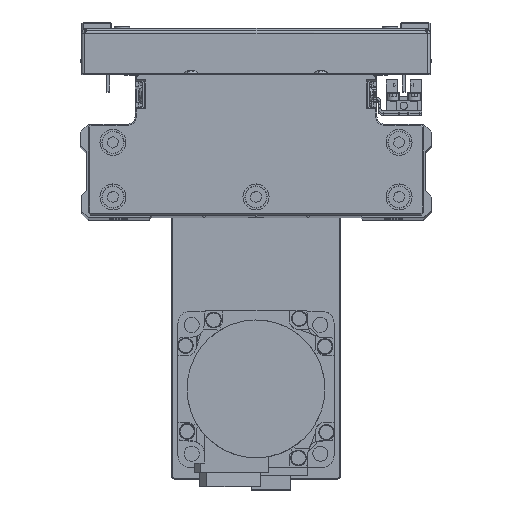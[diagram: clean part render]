
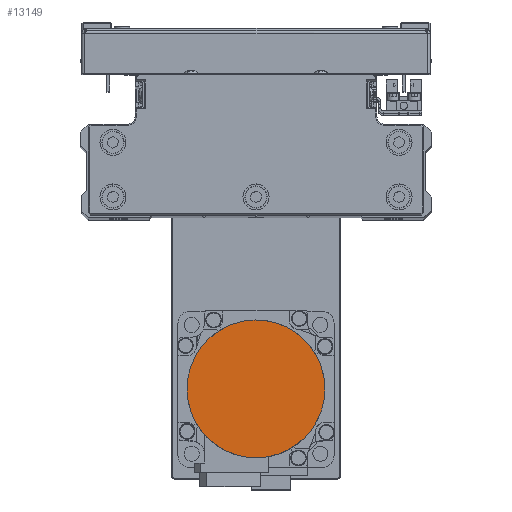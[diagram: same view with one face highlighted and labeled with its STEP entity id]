
A CAD part, top view. The second image highlights one B-rep face of the part: STEP entity #13149.
In plain terms, the highlighted planar face has unit normal (0, 0, 1) as drawn and (0, 0, -1) by its records, which use the part's own axes.
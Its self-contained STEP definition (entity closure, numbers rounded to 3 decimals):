
#275 = B_SPLINE_CURVE_WITH_KNOTS ( 'NONE', 3,
 ( #40828, #10545, #24027, #37523, #7233, #20715, #34214, #3919, #17388, #30891, #599, #14077, #27581, #41055, #10770, #24251, #37745, #7453, #20932, #34428, #4134, #17607, #31112, #825, #14301, #27803, #41276, #10997, #24473, #37962, #7664, #21150, #34647, #4357 ),
 .UNSPECIFIED., .F., .F.,
 ( 4, 2, 2, 2, 2, 2, 2, 2, 2, 2, 2, 2, 2, 2, 2, 2, 4 ),
 ( 0., 0.063, 0.125, 0.188, 0.25, 0.312, 0.375, 0.437, 0.5, 0.562, 0.625, 0.687, 0.75, 0.813, 0.875, 0.938, 1. ),
 .UNSPECIFIED. ) ;
#599 = CARTESIAN_POINT ( 'NONE',  ( -16.165, -21.07, -109.7 ) ) ;
#825 = CARTESIAN_POINT ( 'NONE',  ( 16.165, -21.07, -109.7 ) ) ;
#1403 = CARTESIAN_POINT ( 'NONE',  ( 22.998, 13.28, -109.7 ) ) ;
#1614 = CARTESIAN_POINT ( 'NONE',  ( -6.871, 25.652, -109.7 ) ) ;
#1831 = CARTESIAN_POINT ( 'NONE',  ( -26.5, 1.734, -109.7 ) ) ;
#3809 = AXIS2_PLACEMENT_3D ( 'NONE', #43321, #13039, #26533 ) ;
#3919 = CARTESIAN_POINT ( 'NONE',  ( -21.07, -16.165, -109.7 ) ) ;
#4134 = CARTESIAN_POINT ( 'NONE',  ( 8.539, -25.147, -109.7 ) ) ;
#4357 = CARTESIAN_POINT ( 'NONE',  ( 26.5, 0., -109.7 ) ) ;
#4729 = CARTESIAN_POINT ( 'NONE',  ( 25.652, 6.871, -109.7 ) ) ;
#4937 = CARTESIAN_POINT ( 'NONE',  ( 1.734, 26.5, -109.7 ) ) ;
#5151 = CARTESIAN_POINT ( 'NONE',  ( -25.147, 8.539, -109.7 ) ) ;
#7233 = CARTESIAN_POINT ( 'NONE',  ( -25.147, -8.539, -109.7 ) ) ;
#7453 = CARTESIAN_POINT ( 'NONE',  ( 1.734, -26.5, -109.7 ) ) ;
#7664 = CARTESIAN_POINT ( 'NONE',  ( 25.652, -6.871, -109.7 ) ) ;
#8042 = CARTESIAN_POINT ( 'NONE',  ( 26.5, 0., -109.7 ) ) ;
#8251 = CARTESIAN_POINT ( 'NONE',  ( 8.539, 25.147, -109.7 ) ) ;
#8463 = CARTESIAN_POINT ( 'NONE',  ( -21.07, 16.165, -109.7 ) ) ;
#10545 = CARTESIAN_POINT ( 'NONE',  ( -26.5, -1.734, -109.7 ) ) ;
#10770 = CARTESIAN_POINT ( 'NONE',  ( -6.871, -25.652, -109.7 ) ) ;
#10997 = CARTESIAN_POINT ( 'NONE',  ( 22.998, -13.28, -109.7 ) ) ;
#11570 = CARTESIAN_POINT ( 'NONE',  ( 16.165, 21.07, -109.7 ) ) ;
#11622 = EDGE_CURVE ( 'NONE', #18825, #31025, #19077, .T. ) ;
#11783 = CARTESIAN_POINT ( 'NONE',  ( -16.165, 21.07, -109.7 ) ) ;
#13039 = DIRECTION ( 'NONE',  ( 0., 0., 1. ) ) ;
#13149 = ADVANCED_FACE ( 'NONE', ( #16353 ), #29841, .F. ) ;
#14077 = CARTESIAN_POINT ( 'NONE',  ( -13.28, -22.998, -109.7 ) ) ;
#14301 = CARTESIAN_POINT ( 'NONE',  ( 17.512, -19.965, -109.7 ) ) ;
#14891 = CARTESIAN_POINT ( 'NONE',  ( 21.07, 16.165, -109.7 ) ) ;
#15109 = CARTESIAN_POINT ( 'NONE',  ( -8.539, 25.147, -109.7 ) ) ;
#15327 = CARTESIAN_POINT ( 'NONE',  ( -26.5, 0., -109.7 ) ) ;
#15533 = CARTESIAN_POINT ( 'NONE',  ( -26.5, 0., -109.7 ) ) ;
#16353 = FACE_OUTER_BOUND ( 'NONE', #22803, .T. ) ;
#17388 = CARTESIAN_POINT ( 'NONE',  ( -19.965, -17.512, -109.7 ) ) ;
#17607 = CARTESIAN_POINT ( 'NONE',  ( 11.744, -23.819, -109.7 ) ) ;
#18208 = CARTESIAN_POINT ( 'NONE',  ( 25.147, 8.539, -109.7 ) ) ;
#18417 = CARTESIAN_POINT ( 'NONE',  ( -1.734, 26.5, -109.7 ) ) ;
#18624 = CARTESIAN_POINT ( 'NONE',  ( -25.652, 6.871, -109.7 ) ) ;
#18825 = VERTEX_POINT ( 'NONE', #22446 ) ;
#19077 = B_SPLINE_CURVE_WITH_KNOTS ( 'NONE', 3,
 ( #8042, #21532, #35014, #4729, #18208, #31687, #1403, #14891, #28379, #41856, #11570, #25055, #38554, #8251, #21728, #35225, #4937, #18417, #31903, #1614, #15109, #28596, #42071, #11783, #25265, #38761, #8463, #21938, #35436, #5151, #18624, #32129, #1831, #15327 ),
 .UNSPECIFIED., .F., .F.,
 ( 4, 2, 2, 2, 2, 2, 2, 2, 2, 2, 2, 2, 2, 2, 2, 2, 4 ),
 ( 0., 0.062, 0.125, 0.187, 0.25, 0.312, 0.375, 0.437, 0.5, 0.562, 0.625, 0.687, 0.75, 0.813, 0.875, 0.938, 1. ),
 .UNSPECIFIED. ) ;
#20715 = CARTESIAN_POINT ( 'NONE',  ( -23.819, -11.744, -109.7 ) ) ;
#20932 = CARTESIAN_POINT ( 'NONE',  ( 3.469, -26.329, -109.7 ) ) ;
#21150 = CARTESIAN_POINT ( 'NONE',  ( 26.329, -3.469, -109.7 ) ) ;
#21532 = CARTESIAN_POINT ( 'NONE',  ( 26.5, 1.734, -109.7 ) ) ;
#21728 = CARTESIAN_POINT ( 'NONE',  ( 6.871, 25.652, -109.7 ) ) ;
#21938 = CARTESIAN_POINT ( 'NONE',  ( -22.998, 13.28, -109.7 ) ) ;
#22446 = CARTESIAN_POINT ( 'NONE',  ( 26.5, 0., -109.7 ) ) ;
#22803 = EDGE_LOOP ( 'NONE', ( #30479, #30107 ) ) ;
#24027 = CARTESIAN_POINT ( 'NONE',  ( -26.329, -3.469, -109.7 ) ) ;
#24251 = CARTESIAN_POINT ( 'NONE',  ( -3.469, -26.329, -109.7 ) ) ;
#24473 = CARTESIAN_POINT ( 'NONE',  ( 23.819, -11.744, -109.7 ) ) ;
#25055 = CARTESIAN_POINT ( 'NONE',  ( 13.28, 22.998, -109.7 ) ) ;
#25265 = CARTESIAN_POINT ( 'NONE',  ( -17.512, 19.965, -109.7 ) ) ;
#26533 = DIRECTION ( 'NONE',  ( 1., 0., 0. ) ) ;
#27581 = CARTESIAN_POINT ( 'NONE',  ( -11.744, -23.819, -109.7 ) ) ;
#27803 = CARTESIAN_POINT ( 'NONE',  ( 19.965, -17.512, -109.7 ) ) ;
#28379 = CARTESIAN_POINT ( 'NONE',  ( 19.965, 17.512, -109.7 ) ) ;
#28596 = CARTESIAN_POINT ( 'NONE',  ( -11.744, 23.819, -109.7 ) ) ;
#29841 = PLANE ( 'NONE',  #3809 ) ;
#30107 = ORIENTED_EDGE ( 'NONE', *, *, #35332, .F. ) ;
#30479 = ORIENTED_EDGE ( 'NONE', *, *, #11622, .F. ) ;
#30891 = CARTESIAN_POINT ( 'NONE',  ( -17.512, -19.965, -109.7 ) ) ;
#31025 = VERTEX_POINT ( 'NONE', #15533 ) ;
#31112 = CARTESIAN_POINT ( 'NONE',  ( 13.28, -22.998, -109.7 ) ) ;
#31687 = CARTESIAN_POINT ( 'NONE',  ( 23.819, 11.744, -109.7 ) ) ;
#31903 = CARTESIAN_POINT ( 'NONE',  ( -3.469, 26.329, -109.7 ) ) ;
#32129 = CARTESIAN_POINT ( 'NONE',  ( -26.329, 3.469, -109.7 ) ) ;
#34214 = CARTESIAN_POINT ( 'NONE',  ( -22.998, -13.28, -109.7 ) ) ;
#34428 = CARTESIAN_POINT ( 'NONE',  ( 6.871, -25.652, -109.7 ) ) ;
#34647 = CARTESIAN_POINT ( 'NONE',  ( 26.5, -1.734, -109.7 ) ) ;
#35014 = CARTESIAN_POINT ( 'NONE',  ( 26.329, 3.469, -109.7 ) ) ;
#35225 = CARTESIAN_POINT ( 'NONE',  ( 3.469, 26.329, -109.7 ) ) ;
#35332 = EDGE_CURVE ( 'NONE', #31025, #18825, #275, .T. ) ;
#35436 = CARTESIAN_POINT ( 'NONE',  ( -23.819, 11.744, -109.7 ) ) ;
#37523 = CARTESIAN_POINT ( 'NONE',  ( -25.652, -6.871, -109.7 ) ) ;
#37745 = CARTESIAN_POINT ( 'NONE',  ( -1.734, -26.5, -109.7 ) ) ;
#37962 = CARTESIAN_POINT ( 'NONE',  ( 25.147, -8.539, -109.7 ) ) ;
#38554 = CARTESIAN_POINT ( 'NONE',  ( 11.744, 23.819, -109.7 ) ) ;
#38761 = CARTESIAN_POINT ( 'NONE',  ( -19.965, 17.512, -109.7 ) ) ;
#40828 = CARTESIAN_POINT ( 'NONE',  ( -26.5, 0., -109.7 ) ) ;
#41055 = CARTESIAN_POINT ( 'NONE',  ( -8.539, -25.147, -109.7 ) ) ;
#41276 = CARTESIAN_POINT ( 'NONE',  ( 21.07, -16.165, -109.7 ) ) ;
#41856 = CARTESIAN_POINT ( 'NONE',  ( 17.512, 19.965, -109.7 ) ) ;
#42071 = CARTESIAN_POINT ( 'NONE',  ( -13.28, 22.998, -109.7 ) ) ;
#43321 = CARTESIAN_POINT ( 'NONE',  ( 0., 0., -109.7 ) ) ;
